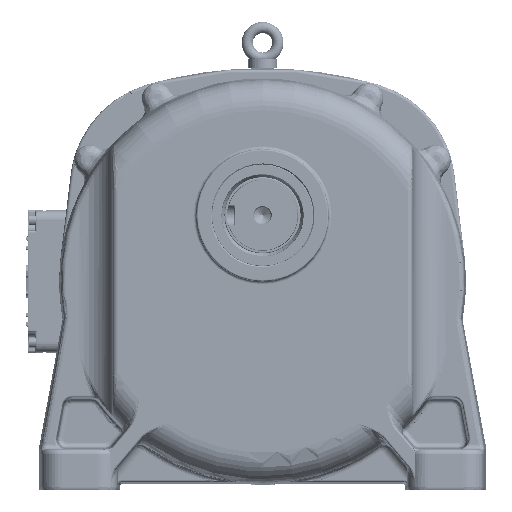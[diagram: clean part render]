
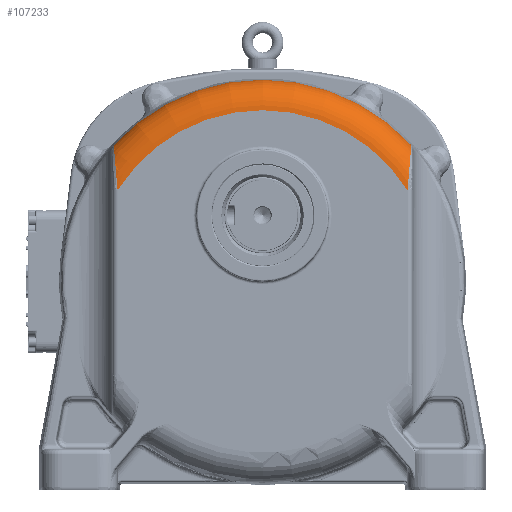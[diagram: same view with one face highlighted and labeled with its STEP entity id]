
A CAD part, front view. The second image highlights one B-rep face of the part: STEP entity #107233.
In plain terms, the highlighted toroidal (fillet/blend) face has major radius 168.286 mm and minor radius 30 mm.
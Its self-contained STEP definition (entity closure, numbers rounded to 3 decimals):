
#2226=TOROIDAL_SURFACE('',#115632,168.286,30.);
#3214=B_SPLINE_CURVE_WITH_KNOTS('',3,(#175872,#175873,#175874,#175875,#175876,
#175877,#175878,#175879),.UNSPECIFIED.,.F.,.F.,(4,1,1,1,1,4),(-4.797,
-3.426,-2.056,-1.028,-0.685,
0.),.UNSPECIFIED.);
#3215=B_SPLINE_CURVE_WITH_KNOTS('',3,(#175883,#175884,#175885,#175886,#175887,
#175888,#175889,#175890),.UNSPECIFIED.,.F.,.F.,(4,1,1,1,1,4),(-4.797,
-4.112,-3.427,-2.056,-0.685,
0.),.UNSPECIFIED.);
#3216=B_SPLINE_CURVE_WITH_KNOTS('',3,(#175891,#175892,#175893,#175894),
 .UNSPECIFIED.,.F.,.F.,(4,4),(-0.483,0.),.UNSPECIFIED.);
#3217=B_SPLINE_CURVE_WITH_KNOTS('',3,(#175895,#175896,#175897,#175898),
 .UNSPECIFIED.,.F.,.F.,(4,4),(0.,0.483),.UNSPECIFIED.);
#10514=FACE_OUTER_BOUND('',#17151,.T.);
#17151=EDGE_LOOP('',(#77182,#77183,#77184,#77185,#77186,#77187));
#37172=CIRCLE('',#115622,198.284);
#37182=CIRCLE('',#115633,168.286);
#44387=VERTEX_POINT('',#175791);
#44389=VERTEX_POINT('',#175802);
#44401=VERTEX_POINT('',#175870);
#44402=VERTEX_POINT('',#175871);
#44403=VERTEX_POINT('',#175880);
#44404=VERTEX_POINT('',#175882);
#56056=EDGE_CURVE('',#44389,#44387,#37172,.T.);
#56073=EDGE_CURVE('',#44401,#44402,#3214,.T.);
#56074=EDGE_CURVE('',#44401,#44403,#37182,.T.);
#56075=EDGE_CURVE('',#44404,#44403,#3215,.T.);
#56076=EDGE_CURVE('',#44389,#44404,#3216,.T.);
#56077=EDGE_CURVE('',#44402,#44387,#3217,.T.);
#77182=ORIENTED_EDGE('',*,*,#56073,.F.);
#77183=ORIENTED_EDGE('',*,*,#56074,.T.);
#77184=ORIENTED_EDGE('',*,*,#56075,.F.);
#77185=ORIENTED_EDGE('',*,*,#56076,.F.);
#77186=ORIENTED_EDGE('',*,*,#56056,.T.);
#77187=ORIENTED_EDGE('',*,*,#56077,.F.);
#107233=ADVANCED_FACE('',(#10514),#2226,.T.);
#115622=AXIS2_PLACEMENT_3D('',#175803,#133426,#133427);
#115632=AXIS2_PLACEMENT_3D('',#175869,#133446,#133447);
#115633=AXIS2_PLACEMENT_3D('',#175881,#133448,#133449);
#133426=DIRECTION('center_axis',(0.,-1.,0.));
#133427=DIRECTION('ref_axis',(-1.,0.,0.));
#133446=DIRECTION('center_axis',(0.,1.,0.));
#133447=DIRECTION('ref_axis',(0.,0.,1.));
#133448=DIRECTION('center_axis',(0.,1.,0.));
#133449=DIRECTION('ref_axis',(-1.,0.,0.));
#175791=CARTESIAN_POINT('',(-159.189,10.455,131.873));
#175802=CARTESIAN_POINT('',(133.806,10.455,131.873));
#175803=CARTESIAN_POINT('Origin',(-12.691,10.455,-1.75));
#175869=CARTESIAN_POINT('Origin',(-12.691,10.742,-1.75));
#175870=CARTESIAN_POINT('',(-155.191,-19.258,87.77));
#175871=CARTESIAN_POINT('',(-158.812,4.742,131.388));
#175872=CARTESIAN_POINT('Ctrl Pts',(-155.191,-19.258,
87.77));
#175873=CARTESIAN_POINT('Ctrl Pts',(-155.603,-19.258,
92.597));
#175874=CARTESIAN_POINT('Ctrl Pts',(-156.436,-18.415,
102.342));
#175875=CARTESIAN_POINT('Ctrl Pts',(-157.535,-14.01,
115.486));
#175876=CARTESIAN_POINT('Ctrl Pts',(-158.217,-7.794,
123.899));
#175877=CARTESIAN_POINT('Ctrl Pts',(-158.614,-1.566,
128.866));
#175878=CARTESIAN_POINT('Ctrl Pts',(-158.755,2.119,
130.656));
#175879=CARTESIAN_POINT('Ctrl Pts',(-158.812,4.742,
131.388));
#175880=CARTESIAN_POINT('',(129.809,-19.258,87.77));
#175881=CARTESIAN_POINT('Origin',(-12.691,-19.258,-1.75));
#175882=CARTESIAN_POINT('',(133.43,4.742,131.388));
#175883=CARTESIAN_POINT('Ctrl Pts',(133.43,4.742,131.388));
#175884=CARTESIAN_POINT('Ctrl Pts',(133.373,2.119,130.656));
#175885=CARTESIAN_POINT('Ctrl Pts',(133.184,-2.797,
128.269));
#175886=CARTESIAN_POINT('Ctrl Pts',(132.605,-10.577,
121.035));
#175887=CARTESIAN_POINT('Ctrl Pts',(131.666,-16.542,109.602));
#175888=CARTESIAN_POINT('Ctrl Pts',(130.635,-18.936,
97.452));
#175889=CARTESIAN_POINT('Ctrl Pts',(130.015,-19.258,
90.184));
#175890=CARTESIAN_POINT('Ctrl Pts',(129.809,-19.258,
87.77));
#175891=CARTESIAN_POINT('Ctrl Pts',(133.806,10.455,131.873));
#175892=CARTESIAN_POINT('Ctrl Pts',(133.596,8.555,132.076));
#175893=CARTESIAN_POINT('Ctrl Pts',(133.471,6.59,131.904));
#175894=CARTESIAN_POINT('Ctrl Pts',(133.43,4.742,131.388));
#175895=CARTESIAN_POINT('Ctrl Pts',(-158.812,4.742,
131.388));
#175896=CARTESIAN_POINT('Ctrl Pts',(-158.853,6.59,
131.904));
#175897=CARTESIAN_POINT('Ctrl Pts',(-158.979,8.555,
132.076));
#175898=CARTESIAN_POINT('Ctrl Pts',(-159.189,10.455,131.873));
